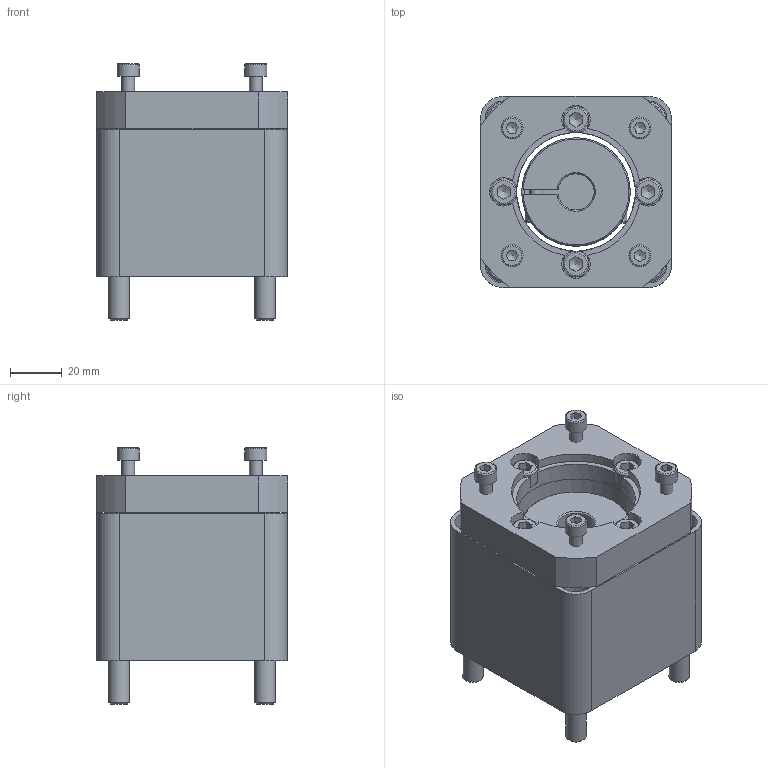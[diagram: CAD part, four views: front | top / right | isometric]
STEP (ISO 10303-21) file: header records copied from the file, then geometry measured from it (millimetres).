
FILE_DESCRIPTION(/* description */ ('EAMK-A O - Coupling housing'),/* implementation_level */ '2;1');
FILE_NAME(/* name */ 'C:\ホームページ用データ\\X2\307E305A30533053306B\X0\\J08151.stp',/* time_stamp */ '2015-04-08T14:39:53+09:00',/* author */ ('Cadenas PARTsolutions'),/* organization */ (''),/* preprocessor_version */ 'ST-DEVELOPER v15.2',/* originating_system */ 'Autodesk Inventor 2014',/* authorisation */ '');
FILE_SCHEMA (('AUTOMOTIVE_DESIGN { 1 0 10303 214 3 1 1 }'));
Length unit declared in the file: millimetre
Products named in the file (8): 551007_EAMK_A_D60_64_L61_1O_; DIN_912___M8x40_F_; 551007_EAMK_A_D60_64C; J03520A; 1455671_EAMC_42_50_12_14; コピー版 JIS B 1176 - M6 x 15; コピー版 JIS B 1176 - M5 x 15; J08151
Bounding box: 74 x 74 x 99.5 mm (x, y, z)
Volume: 291421.2 mm3; surface area: 81355.2 mm2
Topology: 15 solids, 15 shells, 383 faces, 862 edges, 540 vertices
Faces by surface type: plane 193, cone 89, cylinder 82, torus 19
Full cylindrical faces by diameter (mm): 4.134 x4, 4.917 x4, 5 x8, 6 x4, 6.6 x4, 8 x4, 8.5 x6, 9 x4, 10 x4, 13 x4, 14 x4, 40 x2, 42 x1, 46 x1, 48 x1, 60 x1, 64 x2
Entity records: 5877 total; most frequent: CARTESIAN_POINT 1146, DIRECTION 1010, ORIENTED_EDGE 802, AXIS2_PLACEMENT_3D 424, EDGE_CURVE 401, EDGE_LOOP 333, VERTEX_POINT 296, ADVANCED_FACE 209
